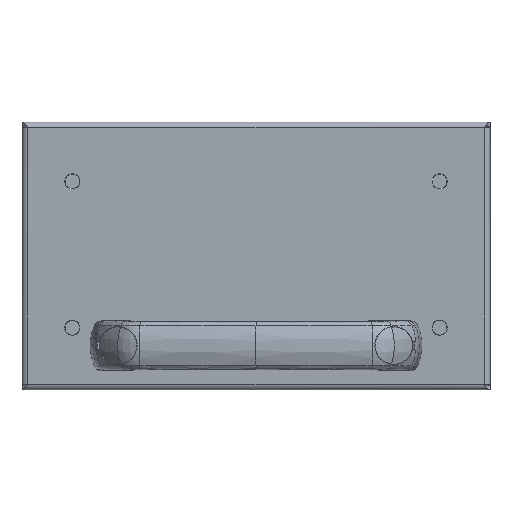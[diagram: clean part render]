
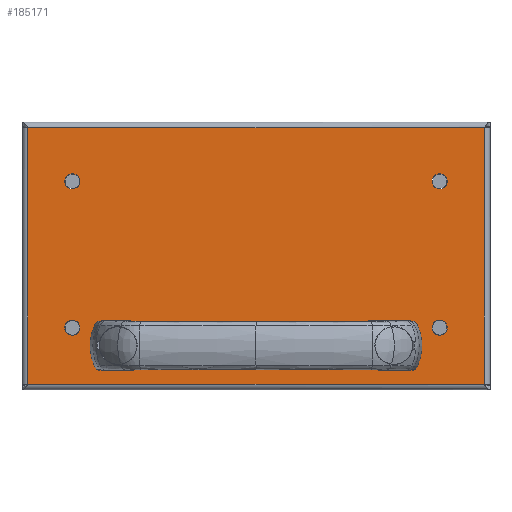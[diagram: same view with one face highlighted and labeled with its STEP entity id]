
A CAD part, top view. The second image highlights one B-rep face of the part: STEP entity #185171.
In plain terms, the highlighted planar face has unit normal (0, 0, 1).
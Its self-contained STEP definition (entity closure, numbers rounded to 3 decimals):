
#184211=CARTESIAN_POINT(' ',(52.75,-32.5,0.));
#184212=VERTEX_POINT(' ',#184211);
#184231=CARTESIAN_POINT(' ',(50.,-32.5,0.));
#184236=DIRECTION(' ',(0.,0.,1.));
#184241=DIRECTION(' ',(1.,0.,0.));
#184246=AXIS2_PLACEMENT_3D(' ',#184231,#184236,#184241);
#184251=CIRCLE('',#184246,2.75);
#184256=CARTESIAN_POINT(' ',(47.25,-32.5,0.));
#184257=VERTEX_POINT(' ',#184256);
#184261=EDGE_CURVE(' ',#184212,#184257,#184251,.T.);
#184431=CARTESIAN_POINT(' ',(50.,-32.5,0.));
#184436=DIRECTION(' ',(0.,0.,1.));
#184441=DIRECTION(' ',(-1.,0.,0.));
#184446=AXIS2_PLACEMENT_3D(' ',#184431,#184436,#184441);
#184451=CIRCLE('',#184446,2.75);
#184456=EDGE_CURVE(' ',#184257,#184212,#184451,.T.);
#184526=DIRECTION(' ',(-0.,-0.,1.));
#184531=CARTESIAN_POINT(' ',(82.65,-46.4,0.));
#184536=DIRECTION(' ',(0.,1.,0.));
#184541=AXIS2_PLACEMENT_3D(' ',#184531,#184526,#184536);
#184546=PLANE('NONE',#184541);
#184551=CARTESIAN_POINT(' ',(82.65,-46.4,0.));
#184556=DIRECTION(' ',(0.,1.,0.));
#184561=VECTOR(' ',#184556,1.);
#184566=LINE('',#184551,#184561);
#184571=CARTESIAN_POINT(' ',(82.65,-46.4,0.));
#184572=VERTEX_POINT(' ',#184571);
#184576=CARTESIAN_POINT(' ',(82.65,46.4,0.));
#184577=VERTEX_POINT(' ',#184576);
#184581=EDGE_CURVE(' ',#184572,#184577,#184566,.T.);
#184586=ORIENTED_EDGE(' ',*,*,#184581,.T.);
#184591=CARTESIAN_POINT(' ',(82.65,46.4,0.));
#184596=DIRECTION(' ',(-1.,0.,0.));
#184601=VECTOR(' ',#184596,1.);
#184606=LINE('',#184591,#184601);
#184611=CARTESIAN_POINT(' ',(-82.65,46.4,0.));
#184612=VERTEX_POINT(' ',#184611);
#184616=EDGE_CURVE(' ',#184577,#184612,#184606,.T.);
#184621=ORIENTED_EDGE(' ',*,*,#184616,.T.);
#184626=CARTESIAN_POINT(' ',(-82.65,46.4,0.));
#184631=DIRECTION(' ',(0.,-1.,0.));
#184636=VECTOR(' ',#184631,1.);
#184641=LINE('',#184626,#184636);
#184646=CARTESIAN_POINT(' ',(-82.65,-46.4,0.));
#184647=VERTEX_POINT(' ',#184646);
#184651=EDGE_CURVE(' ',#184612,#184647,#184641,.T.);
#184656=ORIENTED_EDGE(' ',*,*,#184651,.T.);
#184661=CARTESIAN_POINT(' ',(-82.65,-46.4,0.));
#184666=DIRECTION(' ',(1.,0.,0.));
#184671=VECTOR(' ',#184666,1.);
#184676=LINE('',#184661,#184671);
#184681=EDGE_CURVE(' ',#184647,#184572,#184676,.T.);
#184686=ORIENTED_EDGE(' ',*,*,#184681,.T.);
#184691=EDGE_LOOP(' ',(#184586,#184621,#184656,#184686));
#184696=FACE_OUTER_BOUND(' ',#184691,.T.);
#184701=ORIENTED_EDGE(' ',*,*,#184456,.F.);
#184706=ORIENTED_EDGE(' ',*,*,#184261,.F.);
#184711=EDGE_LOOP(' ',(#184701,#184706));
#184716=FACE_BOUND(' ',#184711,.T.);
#184721=CARTESIAN_POINT(' ',(-66.5,27.,0.));
#184726=DIRECTION(' ',(0.,-0.,-1.));
#184731=DIRECTION(' ',(-1.,0.,0.));
#184736=AXIS2_PLACEMENT_3D(' ',#184721,#184726,#184731);
#184741=CIRCLE('',#184736,2.75);
#184746=CARTESIAN_POINT(' ',(-69.25,27.,0.));
#184747=VERTEX_POINT(' ',#184746);
#184751=CARTESIAN_POINT(' ',(-63.75,27.,0.));
#184752=VERTEX_POINT(' ',#184751);
#184756=EDGE_CURVE(' ',#184747,#184752,#184741,.T.);
#184761=ORIENTED_EDGE(' ',*,*,#184756,.T.);
#184766=CARTESIAN_POINT(' ',(-66.5,27.,0.));
#184771=DIRECTION(' ',(0.,0.,-1.));
#184776=DIRECTION(' ',(1.,0.,0.));
#184781=AXIS2_PLACEMENT_3D(' ',#184766,#184771,#184776);
#184786=CIRCLE('',#184781,2.75);
#184791=EDGE_CURVE(' ',#184752,#184747,#184786,.T.);
#184796=ORIENTED_EDGE(' ',*,*,#184791,.T.);
#184801=EDGE_LOOP(' ',(#184761,#184796));
#184806=FACE_BOUND(' ',#184801,.T.);
#184811=CARTESIAN_POINT(' ',(66.5,-26.,0.));
#184816=DIRECTION(' ',(0.,-0.,-1.));
#184821=DIRECTION(' ',(-1.,0.,0.));
#184826=AXIS2_PLACEMENT_3D(' ',#184811,#184816,#184821);
#184831=CIRCLE('',#184826,2.75);
#184836=CARTESIAN_POINT(' ',(63.75,-26.,0.));
#184837=VERTEX_POINT(' ',#184836);
#184841=CARTESIAN_POINT(' ',(69.25,-26.,0.));
#184842=VERTEX_POINT(' ',#184841);
#184846=EDGE_CURVE(' ',#184837,#184842,#184831,.T.);
#184851=ORIENTED_EDGE(' ',*,*,#184846,.T.);
#184856=CARTESIAN_POINT(' ',(66.5,-26.,0.));
#184861=DIRECTION(' ',(0.,0.,-1.));
#184866=DIRECTION(' ',(1.,0.,0.));
#184871=AXIS2_PLACEMENT_3D(' ',#184856,#184861,#184866);
#184876=CIRCLE('',#184871,2.75);
#184881=EDGE_CURVE(' ',#184842,#184837,#184876,.T.);
#184886=ORIENTED_EDGE(' ',*,*,#184881,.T.);
#184891=EDGE_LOOP(' ',(#184851,#184886));
#184896=FACE_BOUND(' ',#184891,.T.);
#184901=CARTESIAN_POINT(' ',(-66.5,-26.,0.));
#184906=DIRECTION(' ',(0.,-0.,-1.));
#184911=DIRECTION(' ',(-1.,0.,0.));
#184916=AXIS2_PLACEMENT_3D(' ',#184901,#184906,#184911);
#184921=CIRCLE('',#184916,2.75);
#184926=CARTESIAN_POINT(' ',(-69.25,-26.,0.));
#184927=VERTEX_POINT(' ',#184926);
#184931=CARTESIAN_POINT(' ',(-63.75,-26.,0.));
#184932=VERTEX_POINT(' ',#184931);
#184936=EDGE_CURVE(' ',#184927,#184932,#184921,.T.);
#184941=ORIENTED_EDGE(' ',*,*,#184936,.T.);
#184946=CARTESIAN_POINT(' ',(-66.5,-26.,0.));
#184951=DIRECTION(' ',(0.,0.,-1.));
#184956=DIRECTION(' ',(1.,0.,0.));
#184961=AXIS2_PLACEMENT_3D(' ',#184946,#184951,#184956);
#184966=CIRCLE('',#184961,2.75);
#184971=EDGE_CURVE(' ',#184932,#184927,#184966,.T.);
#184976=ORIENTED_EDGE(' ',*,*,#184971,.T.);
#184981=EDGE_LOOP(' ',(#184941,#184976));
#184986=FACE_BOUND(' ',#184981,.T.);
#184991=CARTESIAN_POINT(' ',(66.5,27.,0.));
#184996=DIRECTION(' ',(0.,-0.,-1.));
#185001=DIRECTION(' ',(-1.,0.,0.));
#185006=AXIS2_PLACEMENT_3D(' ',#184991,#184996,#185001);
#185011=CIRCLE('',#185006,2.75);
#185016=CARTESIAN_POINT(' ',(63.75,27.,0.));
#185017=VERTEX_POINT(' ',#185016);
#185021=CARTESIAN_POINT(' ',(69.25,27.,0.));
#185022=VERTEX_POINT(' ',#185021);
#185026=EDGE_CURVE(' ',#185017,#185022,#185011,.T.);
#185031=ORIENTED_EDGE(' ',*,*,#185026,.T.);
#185036=CARTESIAN_POINT(' ',(66.5,27.,0.));
#185041=DIRECTION(' ',(0.,0.,-1.));
#185046=DIRECTION(' ',(1.,0.,0.));
#185051=AXIS2_PLACEMENT_3D(' ',#185036,#185041,#185046);
#185056=CIRCLE('',#185051,2.75);
#185061=EDGE_CURVE(' ',#185022,#185017,#185056,.T.);
#185066=ORIENTED_EDGE(' ',*,*,#185061,.T.);
#185071=EDGE_LOOP(' ',(#185031,#185066));
#185076=FACE_BOUND(' ',#185071,.T.);
#185081=CARTESIAN_POINT(' ',(-50.,-32.5,0.));
#185086=DIRECTION(' ',(0.,0.,1.));
#185091=DIRECTION(' ',(-1.,0.,0.));
#185096=AXIS2_PLACEMENT_3D(' ',#185081,#185086,#185091);
#185101=CIRCLE('',#185096,2.75);
#185106=CARTESIAN_POINT(' ',(-52.75,-32.5,0.));
#185107=VERTEX_POINT(' ',#185106);
#185111=CARTESIAN_POINT(' ',(-47.25,-32.5,0.));
#185112=VERTEX_POINT(' ',#185111);
#185116=EDGE_CURVE(' ',#185107,#185112,#185101,.T.);
#185121=ORIENTED_EDGE(' ',*,*,#185116,.F.);
#185126=CARTESIAN_POINT(' ',(-50.,-32.5,0.));
#185131=DIRECTION(' ',(0.,0.,1.));
#185136=DIRECTION(' ',(1.,0.,0.));
#185141=AXIS2_PLACEMENT_3D(' ',#185126,#185131,#185136);
#185146=CIRCLE('',#185141,2.75);
#185151=EDGE_CURVE(' ',#185112,#185107,#185146,.T.);
#185156=ORIENTED_EDGE(' ',*,*,#185151,.F.);
#185161=EDGE_LOOP(' ',(#185121,#185156));
#185166=FACE_BOUND(' ',#185161,.T.);
#185171=ADVANCED_FACE('NONE',(#184696,#184716,#184806,#184896,#184986,#185076,#185166),#184546,.T.);
